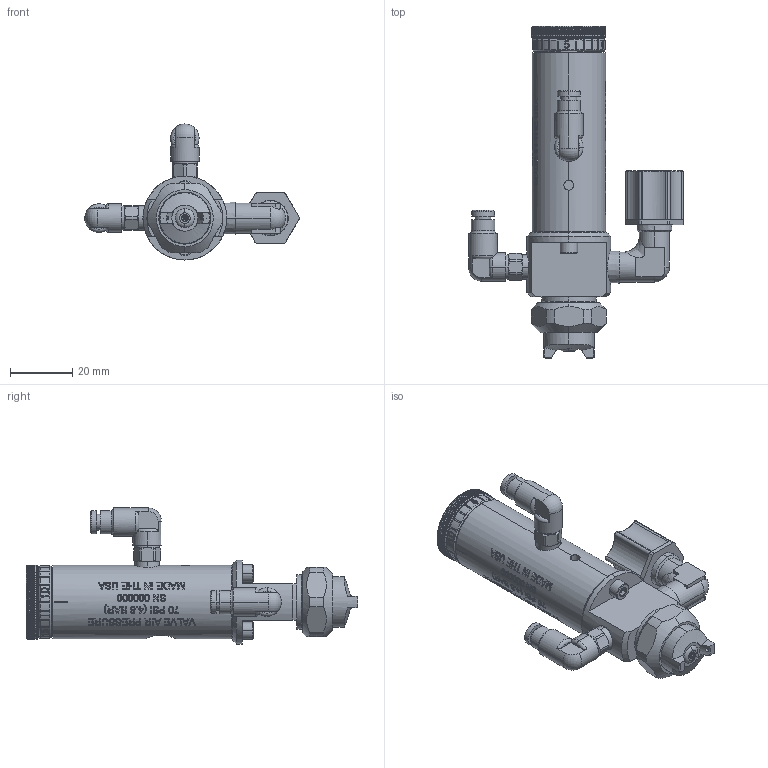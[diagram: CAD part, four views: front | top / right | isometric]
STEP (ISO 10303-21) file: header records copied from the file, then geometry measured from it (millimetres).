
FILE_DESCRIPTION (( 'STEP AP214' ), '1' );
FILE_NAME ('NORDSONEFD-7021615 781S-SS-46F SPRAY VALVE SS 046 NOZZLE FAN.STEP', '2018-12-18T16:58:42', ( '' ), ( '' ), 'SwSTEP 2.0', 'SolidWorks 2018', '' );
FILE_SCHEMA (( 'AUTOMOTIVE_DESIGN' ));
Length unit declared in the file: inch
Products named in the file (1): NORDSONEFD-7021615 781S-SS-46F SPRAY VALVE SS 046 NOZZLE FAN
Bounding box: 68.86 x 106.62 x 43.69 mm (x, y, z)
Volume: 48745.8 mm3; surface area: 16853.8 mm2
Topology: 1 solids, 1 shells, 1811 faces, 4872 edges, 3183 vertices
Faces by surface type: plane 861, bspline 395, cylinder 382, cone 114, torus 58, sphere 1
Entity records: 77541 total; most frequent: CARTESIAN_POINT 32820, ORIENTED_EDGE 9714, DIRECTION 7069, EDGE_CURVE 4857, VERTEX_POINT 3183, AXIS2_PLACEMENT_3D 2484, LINE 2101, VECTOR 2101
